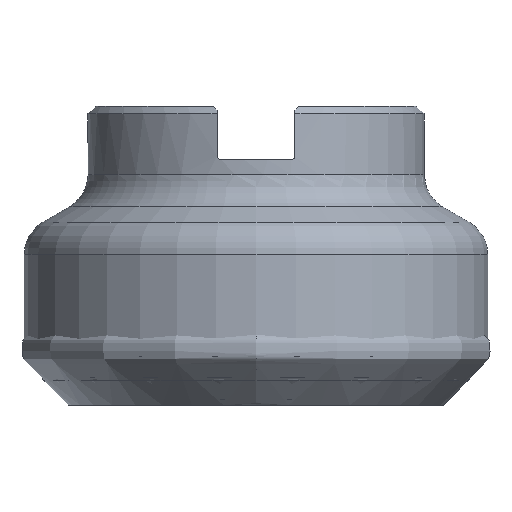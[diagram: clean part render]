
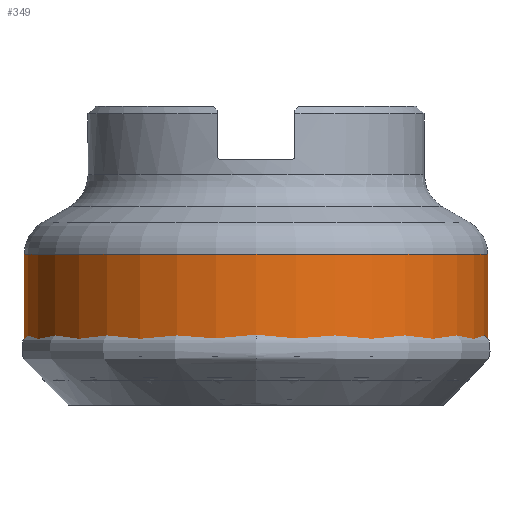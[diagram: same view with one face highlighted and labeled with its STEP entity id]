
A CAD part, left-side view. The second image highlights one B-rep face of the part: STEP entity #349.
In plain terms, the highlighted cylindrical face has radius 31 mm (diameter 62 mm), a full revolution.
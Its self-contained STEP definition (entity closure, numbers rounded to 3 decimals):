
#200=CYLINDRICAL_SURFACE('',#1141,31.);
#254=FACE_BOUND('',#468,.T.);
#255=FACE_BOUND('',#469,.T.);
#349=ADVANCED_FACE('',(#254,#255),#200,.T.);
#468=EDGE_LOOP('',(#661));
#469=EDGE_LOOP('',(#662));
#661=ORIENTED_EDGE('',*,*,#975,.T.);
#662=ORIENTED_EDGE('',*,*,#976,.T.);
#881=VERTEX_POINT('',#1694);
#882=VERTEX_POINT('',#1696);
#975=EDGE_CURVE('',#881,#881,#1069,.T.);
#976=EDGE_CURVE('',#882,#882,#1070,.T.);
#1069=CIRCLE('',#1139,31.);
#1070=CIRCLE('',#1140,31.);
#1139=AXIS2_PLACEMENT_3D('',#1693,#1297,#1298);
#1140=AXIS2_PLACEMENT_3D('',#1695,#1299,#1300);
#1141=AXIS2_PLACEMENT_3D('',#1697,#1301,#1302);
#1297=DIRECTION('',(0.,0.,1.));
#1298=DIRECTION('',(-1.,0.,0.));
#1299=DIRECTION('',(0.,0.,-1.));
#1300=DIRECTION('',(-1.,0.,0.));
#1301=DIRECTION('',(0.,0.,1.));
#1302=DIRECTION('',(-1.,0.,0.));
#1693=CARTESIAN_POINT('',(0.,0.,-33.41));
#1694=CARTESIAN_POINT('',(-31.,0.,-33.41));
#1695=CARTESIAN_POINT('',(0.,0.,-19.794));
#1696=CARTESIAN_POINT('',(-31.,0.,-19.794));
#1697=CARTESIAN_POINT('',(0.,0.,-40.));
